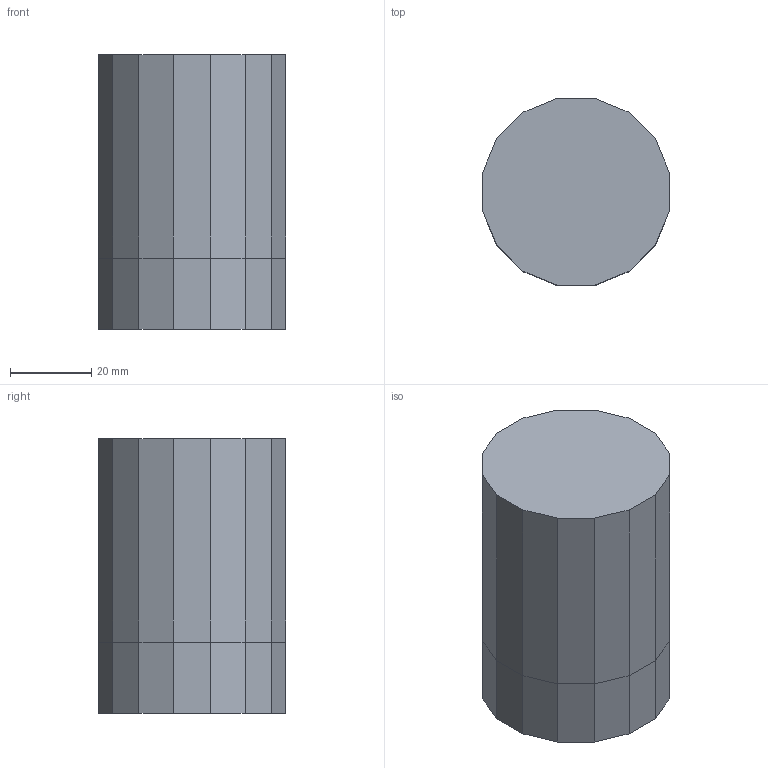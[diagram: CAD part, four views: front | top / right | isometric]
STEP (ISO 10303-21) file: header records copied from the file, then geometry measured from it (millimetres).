
FILE_DESCRIPTION(('STEP AP203'),'2;1');
FILE_NAME('DIS_3D_N746.stp','2023-01-13T08:19:53',(''),(''),'2015.2.119','THINKDESIGN','');
FILE_SCHEMA(('CONFIG_CONTROL_DESIGN'));
Length unit declared in the file: millimetre
Bounding box: 46.1 x 46.1 x 67.5 mm (x, y, z)
Volume: 114114.7 mm3; surface area: 16672.7 mm2
Topology: 2 solids, 2 shells, 39 faces, 102 edges, 68 vertices
Faces by surface type: plane 36, cylinder 3
Entity records: 1293 total; most frequent: CARTESIAN_POINT 237, ORIENTED_EDGE 204, DIRECTION 180, EDGE_CURVE 102, VECTOR 98, LINE 98, VERTEX_POINT 68, AXIS2_PLACEMENT_3D 41
